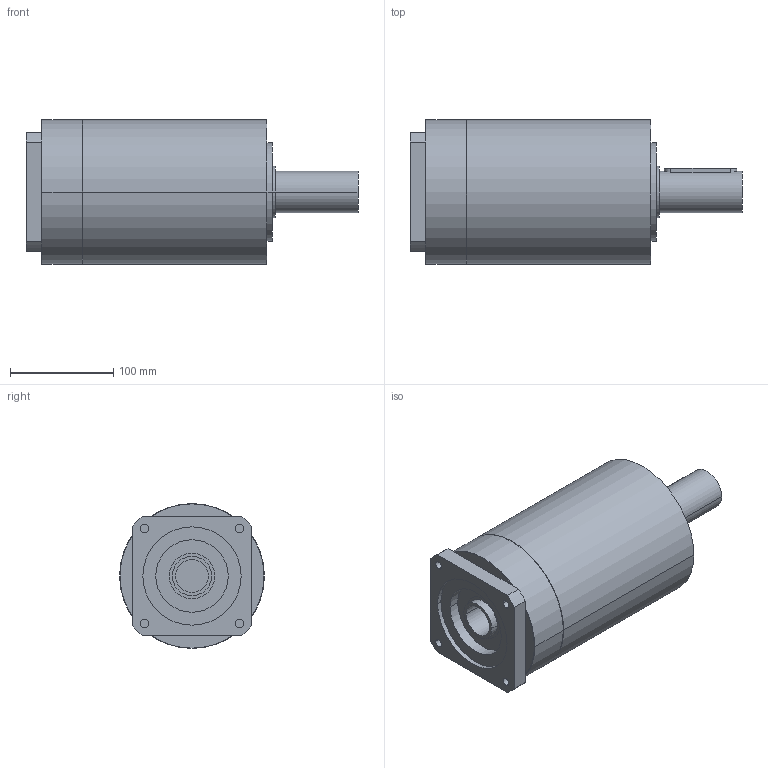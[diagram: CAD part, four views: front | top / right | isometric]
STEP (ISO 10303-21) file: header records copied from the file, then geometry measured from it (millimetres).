
FILE_DESCRIPTION(('CoCreate Modeling STEP Export'),'2;1');
FILE_NAME('GPR150_ig-9-12-16-20-28-35_40_B14_32_P10.stp','2014-08-19T17:04:03',(''),(''),'CoCreate Modeling STEP processor for AP214 (Solid Model)','CoCreate Modeling 16.00C 25-Feb-2009 (C) Parametric Technology GmbH','');
FILE_SCHEMA(('AUTOMOTIVE_DESIGN { 1 0 10303 214 1 1 1 1 }'));
Length unit declared in the file: millimetre
Products named in the file (2): GPR150_ig-9-12-16-20-28-35_40_B14_32_P10
Assembly tree (1 placements, depth 2):
  GPR150_ig-9-12-16-20-28-35_40_B14_32_P10
    GPR150_ig-9-12-16-20-28-35_40_B14_32_P10
Bounding box: 321 x 140 x 140 mm (x, y, z)
Volume: 3553745.3 mm3; surface area: 165644.1 mm2
Topology: 1 solids, 1 shells, 84 faces, 206 edges, 140 vertices
Faces by surface type: cylinder 44, plane 34, cone 6
Entity records: 2116 total; most frequent: ORIENTED_EDGE 408, CARTESIAN_POINT 403, DIRECTION 278, EDGE_CURVE 204, VERTEX_POINT 140, AXIS2_PLACEMENT_3D 103, EDGE_LOOP 102, FACE_OUTER_BOUND 84
